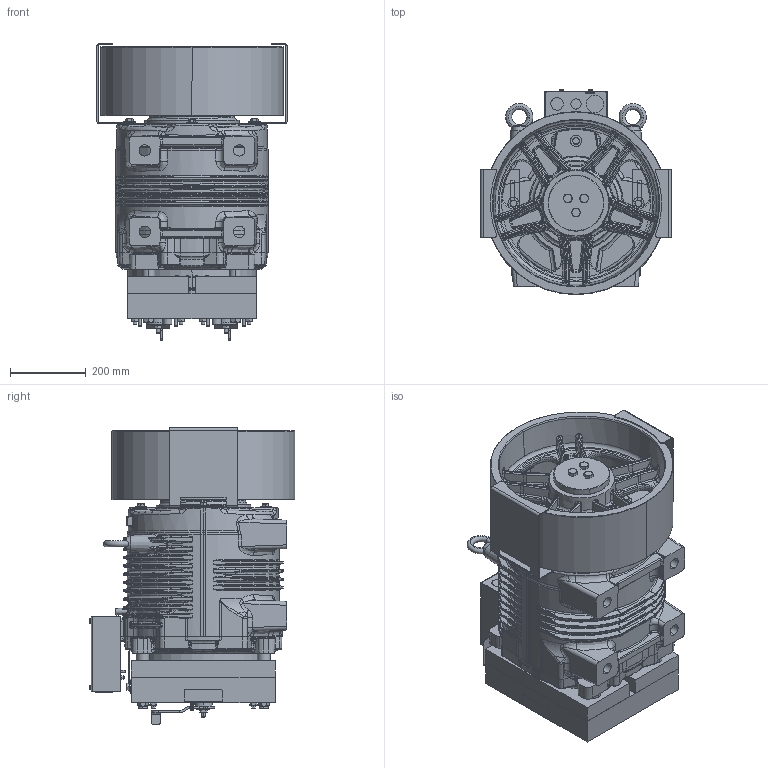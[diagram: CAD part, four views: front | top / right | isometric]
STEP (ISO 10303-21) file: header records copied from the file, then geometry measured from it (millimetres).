
FILE_DESCRIPTION((''),'2;1');
FILE_NAME('00363634_ASM','2020-06-16T',('furlanis'),('Sicor spa'),'CREO PARAMETRIC BY PTC INC, 2017170','CREO PARAMETRIC BY PTC INC, 2017170','');
FILE_SCHEMA(('CONFIG_CONTROL_DESIGN'));
Length unit declared in the file: millimetre
Products named in the file (4): SG62_; _480_182; _480; 00363634_ASM
Assembly tree (4 placements, depth 2):
  00363634_ASM
    SG62_
    _480_182
    _480  x2
Bounding box: 503 x 543.9 x 783.64 mm (x, y, z)
Volume: 11189396.9 mm3; surface area: 4953094.6 mm2
Topology: 3 solids, 181 shells, 4689 faces, 12944 edges, 8188 vertices
Faces by surface type: bspline 1243, plane 1065, cylinder 1053, torus 763, cone 545, sphere 20
Entity records: 252307 total; most frequent: CARTESIAN_POINT 149423, ORIENTED_EDGE 22732, DIRECTION 18019, EDGE_CURVE 12798, VERTEX_POINT 8112, AXIS2_PLACEMENT_3D 7291, B_SPLINE_CURVE_WITH_KNOTS 5478, EDGE_LOOP 4656
